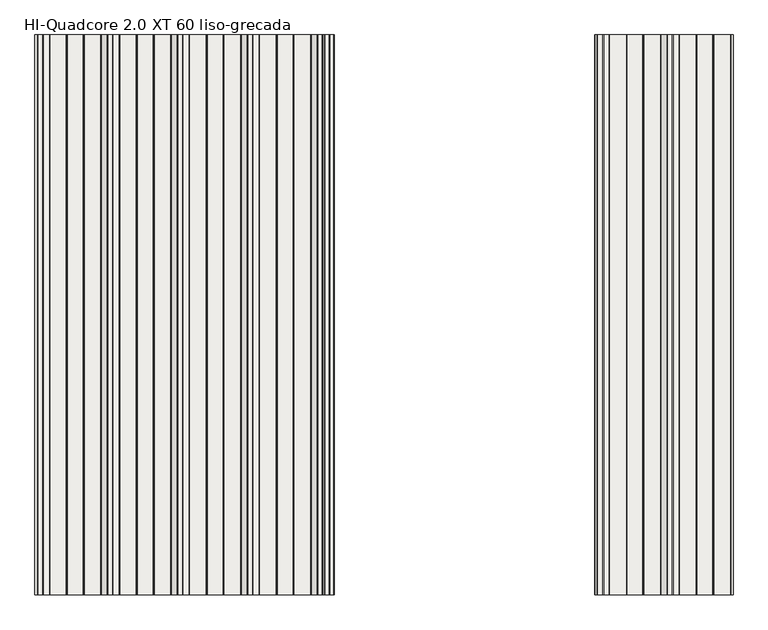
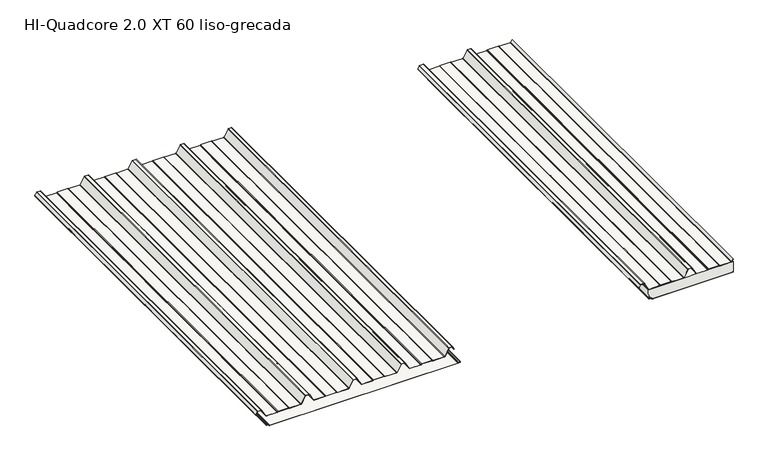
"""IFC4 building model written with IfcOpenShell, lengths in millimetres: slab geometry, HI_QuadCore2.0XT-XT DUAL : HI-Quadcore 2.0 XT 60 liso-grecada."""

from ifc_helpers import new_model, si_unit, point, frame, frame_2d, origin, place, context, project, spatial, polyline, circle_curve, trimmed, segment, composite_curve, outline, extrude, source, transform, mapped, element, save
from ifc_brep_helpers import plane_surface, cylinder_surface, revolved_surface, advanced_brep


def hi_quadcore_2_0_xt_60_liso_grecada_5afc28c5(model_context):
    return source(origin(), model_context, "Body", "SolidModel", [
        extrude(outline(composite_curve([segment(polyline([(98.1649405, 2138.5141429), (83.6579587, 2130.3539656)]), True, "CONTINUOUS"), segment(trimmed(circle_curve(frame_2d((83.0451321, 2131.443435)), 1.25), [point((83.6579587, 2130.3539656))], [point((82.689225, 2132.6416963))], False, "CARTESIAN"), True, "CONTINUOUS"), segment(polyline([(82.689225, 2132.6416963), (85.7359115, 2133.437141), (85.9380053, 2132.663088), (82.9074492, 2131.8718547)]), True, "CONTINUOUS"), segment(trimmed(circle_curve(frame_2d((83.0451321, 2131.443435)), 0.45), [point((82.9074492, 2131.8718547))], [point((83.2657497, 2131.051226))], True, "CARTESIAN"), True, "CONTINUOUS"), segment(polyline([(83.2657497, 2131.051226), (97.7727315, 2139.2114033)]), True, "CONTINUOUS"), segment(trimmed(circle_curve(frame_2d((96.4, 2141.6518148)), 2.8), [point((97.7727315, 2139.2114033))], [point((99.2, 2141.6518148))], True, "CARTESIAN"), True, "CONTINUOUS"), segment(polyline([(99.2, 2141.6518148), (99.2, 2158.9311117)]), True, "CONTINUOUS"), segment(trimmed(circle_curve(frame_2d((96.4, 2158.9311117)), 2.8), [point((99.2, 2158.9311117))], [point((97.5457267, 2161.4859719))], True, "CARTESIAN"), True, "CONTINUOUS"), segment(polyline([(97.5457267, 2161.4859719), (61.2048889, 2181.3052775)]), True, "CONTINUOUS"), segment(trimmed(circle_curve(frame_2d((63.0, 2184.6545425)), 3.8), [point((61.2048889, 2181.3052775))], [point((59.2, 2184.6545425))], False, "CARTESIAN"), True, "CONTINUOUS"), segment(polyline([(59.2, 2184.6545425), (59.2, 2242.4489557)]), True, "CONTINUOUS"), segment(trimmed(circle_curve(frame_2d((63.0, 2242.4489557)), 3.8), [point((59.2, 2242.4489557))], [point((59.6973596, 2244.328468))], False, "CARTESIAN"), True, "CONTINUOUS"), segment(polyline([(59.6973596, 2244.328468), (60.912055, 2246.4629056)]), True, "CONTINUOUS"), segment(trimmed(circle_curve(frame_2d((59.0, 2247.5510443)), 2.2), [point((60.912055, 2246.4629056))], [point((61.2, 2247.5510443))], True, "CARTESIAN"), True, "CONTINUOUS"), segment(polyline([(61.2, 2247.5510443), (61.2, 2302.4489557)]), True, "CONTINUOUS"), segment(trimmed(circle_curve(frame_2d((59.0, 2302.4489557)), 2.2), [point((61.2, 2302.4489557))], [point((60.912055, 2303.5370944))], True, "CARTESIAN"), True, "CONTINUOUS"), segment(polyline([(60.912055, 2303.5370944), (59.6973596, 2305.671532)]), True, "CONTINUOUS"), segment(trimmed(circle_curve(frame_2d((63.0, 2307.5510443)), 3.8), [point((59.6973596, 2305.671532))], [point((59.2, 2307.5510443))], False, "CARTESIAN"), True, "CONTINUOUS"), segment(polyline([(59.2, 2307.5510443), (59.2, 2365.7454575)]), True, "CONTINUOUS"), segment(trimmed(circle_curve(frame_2d((63.0, 2365.7454575)), 3.8), [point((59.2, 2365.7454575))], [point((61.1370073, 2369.0574446))], False, "CARTESIAN"), True, "CONTINUOUS"), segment(polyline([(61.1370073, 2369.0574446), (98.0785747, 2389.8370763)]), True, "CONTINUOUS"), segment(trimmed(circle_curve(frame_2d((97.0, 2391.7545425)), 2.2), [point((98.0785747, 2389.8370763))], [point((99.2, 2391.7545425))], True, "CARTESIAN"), True, "CONTINUOUS"), segment(polyline([(99.2, 2391.7545425), (99.2, 2408.2454575)]), True, "CONTINUOUS"), segment(trimmed(circle_curve(frame_2d((97.0, 2408.2454575)), 2.2), [point((99.2, 2408.2454575))], [point((98.0785747, 2410.1629237))], True, "CARTESIAN"), True, "CONTINUOUS"), segment(polyline([(98.0785747, 2410.1629237), (61.1370073, 2430.9425554)]), True, "CONTINUOUS"), segment(trimmed(circle_curve(frame_2d((63.0, 2434.2545425)), 3.8), [point((61.1370073, 2430.9425554))], [point((59.2, 2434.2545425))], False, "CARTESIAN"), True, "CONTINUOUS"), segment(polyline([(59.2, 2434.2545425), (59.2, 2492.4489557)]), True, "CONTINUOUS"), segment(trimmed(circle_curve(frame_2d((63.0, 2492.4489557)), 3.8), [point((59.2, 2492.4489557))], [point((59.6973596, 2494.328468))], False, "CARTESIAN"), True, "CONTINUOUS"), segment(polyline([(59.6973596, 2494.328468), (60.912055, 2496.4629056)]), True, "CONTINUOUS"), segment(trimmed(circle_curve(frame_2d((59.0, 2497.5510443)), 2.2), [point((60.912055, 2496.4629056))], [point((61.2, 2497.5510443))], True, "CARTESIAN"), True, "CONTINUOUS"), segment(polyline([(61.2, 2497.5510443), (61.2, 2552.4489557)]), True, "CONTINUOUS"), segment(trimmed(circle_curve(frame_2d((59.0, 2552.4489557)), 2.2), [point((61.2, 2552.4489557))], [point((60.912055, 2553.5370944))], True, "CARTESIAN"), True, "CONTINUOUS"), segment(polyline([(60.912055, 2553.5370944), (59.6973596, 2555.671532)]), True, "CONTINUOUS"), segment(trimmed(circle_curve(frame_2d((63.0, 2557.5510443)), 3.8), [point((59.6973596, 2555.671532))], [point((59.2, 2557.5510443))], False, "CARTESIAN"), True, "CONTINUOUS"), segment(polyline([(59.2, 2557.5510443), (59.2, 2615.7454575)]), True, "CONTINUOUS"), segment(trimmed(circle_curve(frame_2d((63.0, 2615.7454575)), 3.8), [point((59.2, 2615.7454575))], [point((61.1370073, 2619.0574446))], False, "CARTESIAN"), True, "CONTINUOUS"), segment(polyline([(61.1370073, 2619.0574446), (71.5197374, 2624.8977303), (73.1515205, 2624.8977303), (61.5292163, 2618.3601842)]), True, "CONTINUOUS"), segment(trimmed(circle_curve(frame_2d((63.0, 2615.7454575)), 3.0), [point((61.5292163, 2618.3601842))], [point((60.0, 2615.7454575))], True, "CARTESIAN"), True, "CONTINUOUS"), segment(polyline([(60.0, 2615.7454575), (60.0, 2557.5510443)]), True, "CONTINUOUS"), segment(trimmed(circle_curve(frame_2d((63.0, 2557.5510443)), 3.0), [point((60.0, 2557.5510443))], [point((60.3926523, 2556.0672188))], True, "CARTESIAN"), True, "CONTINUOUS"), segment(polyline([(60.3926523, 2556.0672188), (61.6073477, 2553.9327812)]), True, "CONTINUOUS"), segment(trimmed(circle_curve(frame_2d((59.0, 2552.4489557)), 3.0), [point((61.6073477, 2553.9327812))], [point((62.0, 2552.4489557))], False, "CARTESIAN"), True, "CONTINUOUS"), segment(polyline([(62.0, 2552.4489557), (62.0, 2497.5510443)]), True, "CONTINUOUS"), segment(trimmed(circle_curve(frame_2d((59.0, 2497.5510443)), 3.0), [point((62.0, 2497.5510443))], [point((61.6073477, 2496.0672188))], False, "CARTESIAN"), True, "CONTINUOUS"), segment(polyline([(61.6073477, 2496.0672188), (60.3926523, 2493.9327812)]), True, "CONTINUOUS"), segment(trimmed(circle_curve(frame_2d((63.0, 2492.4489557)), 3.0), [point((60.3926523, 2493.9327812))], [point((60.0, 2492.4489557))], True, "CARTESIAN"), True, "CONTINUOUS"), segment(polyline([(60.0, 2492.4489557), (60.0, 2434.2545425)]), True, "CONTINUOUS"), segment(trimmed(circle_curve(frame_2d((63.0, 2434.2545425)), 3.0), [point((60.0, 2434.2545425))], [point((61.5292163, 2431.6398158))], True, "CARTESIAN"), True, "CONTINUOUS"), segment(polyline([(61.5292163, 2431.6398158), (98.4707837, 2410.8601842)]), True, "CONTINUOUS"), segment(trimmed(circle_curve(frame_2d((97.0, 2408.2454575)), 3.0), [point((98.4707837, 2410.8601842))], [point((100.0, 2408.2454575))], False, "CARTESIAN"), True, "CONTINUOUS"), segment(polyline([(100.0, 2408.2454575), (100.0, 2391.7545425)]), True, "CONTINUOUS"), segment(trimmed(circle_curve(frame_2d((97.0, 2391.7545425)), 3.0), [point((100.0, 2391.7545425))], [point((98.4707837, 2389.1398158))], False, "CARTESIAN"), True, "CONTINUOUS"), segment(polyline([(98.4707837, 2389.1398158), (61.5292163, 2368.3601842)]), True, "CONTINUOUS"), segment(trimmed(circle_curve(frame_2d((63.0, 2365.7454575)), 3.0), [point((61.5292163, 2368.3601842))], [point((60.0, 2365.7454575))], True, "CARTESIAN"), True, "CONTINUOUS"), segment(polyline([(60.0, 2365.7454575), (60.0, 2307.5510443)]), True, "CONTINUOUS"), segment(trimmed(circle_curve(frame_2d((63.0, 2307.5510443)), 3.0), [point((60.0, 2307.5510443))], [point((60.3926523, 2306.0672188))], True, "CARTESIAN"), True, "CONTINUOUS"), segment(polyline([(60.3926523, 2306.0672188), (61.6073477, 2303.9327812)]), True, "CONTINUOUS"), segment(trimmed(circle_curve(frame_2d((59.0, 2302.4489557)), 3.0), [point((61.6073477, 2303.9327812))], [point((62.0, 2302.4489557))], False, "CARTESIAN"), True, "CONTINUOUS"), segment(polyline([(62.0, 2302.4489557), (62.0, 2247.5510443)]), True, "CONTINUOUS"), segment(trimmed(circle_curve(frame_2d((59.0, 2247.5510443)), 3.0), [point((62.0, 2247.5510443))], [point((61.6073477, 2246.0672188))], False, "CARTESIAN"), True, "CONTINUOUS"), segment(polyline([(61.6073477, 2246.0672188), (60.3926523, 2243.9327812)]), True, "CONTINUOUS"), segment(trimmed(circle_curve(frame_2d((63.0, 2242.4489557)), 3.0), [point((60.3926523, 2243.9327812))], [point((60.0, 2242.4489557))], True, "CARTESIAN"), True, "CONTINUOUS"), segment(polyline([(60.0, 2242.4489557), (60.0, 2184.6545425)]), True, "CONTINUOUS"), segment(trimmed(circle_curve(frame_2d((63.0, 2184.6545425)), 3.0), [point((60.0, 2184.6545425))], [point((61.5852209, 2182.0090935))], True, "CARTESIAN"), True, "CONTINUOUS"), segment(polyline([(61.5852209, 2182.0090935), (97.9031732, 2162.2022691)]), True, "CONTINUOUS"), segment(trimmed(circle_curve(frame_2d((96.4, 2158.9311117)), 3.6), [point((97.9031732, 2162.2022691))], [point((100.0, 2158.9311117))], False, "CARTESIAN"), True, "CONTINUOUS"), segment(polyline([(100.0, 2158.9311117), (100.0, 2141.6518148)]), True, "CONTINUOUS"), segment(trimmed(circle_curve(frame_2d((96.4, 2141.6518148)), 3.6), [point((100.0, 2141.6518148))], [point((98.1649405, 2138.5141429))], False, "CARTESIAN"), True, "CONTINUOUS")], self_intersect=False)), frame((0.0, 0.0, 0.0), z_axis=(0.0, 1.0, 0.0), x_axis=(0.0, 0.0, 1.0)), (0.0, 0.0, 1.0), 2000.0),
        extrude(outline(composite_curve([segment(trimmed(circle_curve(frame_2d((11.9759207, 2187.8456418)), 2.0), [point((13.390095, 2186.4313891))], [point((11.9758652, 2185.8456418))], False, "CARTESIAN"), True, "CONTINUOUS"), segment(polyline([(11.9758652, 2185.8456418), (8.333684, 2185.8457428)]), True, "CONTINUOUS"), segment(trimmed(circle_curve(frame_2d((8.3337394, 2187.8457428)), 2.0), [point((8.333684, 2185.8457428))], [point((6.3390802, 2187.6996787))], False, "CARTESIAN"), True, "CONTINUOUS"), segment(polyline([(6.3390802, 2187.6996787), (5.5769243, 2198.1077232)]), True, "CONTINUOUS"), segment(trimmed(circle_curve(frame_2d((3.5874027, 2197.9032632)), 2.0), [point((5.5769243, 2198.1077232))], [point((3.5874582, 2199.9032632))], True, "CARTESIAN"), True, "CONTINUOUS"), segment(polyline([(3.5874582, 2199.9032632), (1.9861383, 2199.9033076)]), True, "CONTINUOUS"), segment(trimmed(circle_curve(frame_2d((1.9861938, 2201.9033076)), 2.0), [point((1.9861383, 2199.9033076))], [point((-0.0138062, 2201.903363))], False, "CARTESIAN"), True, "CONTINUOUS"), segment(polyline([(-0.0138062, 2201.903363), (-0.0020796, 2624.8977303), (0.7979204, 2624.8977303), (0.7861938, 2201.9033408)]), True, "CONTINUOUS"), segment(trimmed(circle_curve(frame_2d((1.9861938, 2201.9033076)), 1.2), [point((0.7861938, 2201.9033408))], [point((1.9861605, 2200.7033076))], True, "CARTESIAN"), True, "CONTINUOUS"), segment(polyline([(1.9861605, 2200.7033076), (3.5874804, 2200.7032632)]), True, "CONTINUOUS"), segment(trimmed(circle_curve(frame_2d((3.5874027, 2197.9032632)), 2.8), [point((3.5874804, 2200.7032632))], [point((6.3740035, 2198.1768616))], False, "CARTESIAN"), True, "CONTINUOUS"), segment(polyline([(6.3740035, 2198.1768616), (7.1369439, 2187.7581044)]), True, "CONTINUOUS"), segment(trimmed(circle_curve(frame_2d((8.3337394, 2187.8457428)), 1.2), [point((7.1369439, 2187.7581044))], [point((8.3337062, 2186.6457428))], True, "CARTESIAN"), True, "CONTINUOUS"), segment(polyline([(8.3337062, 2186.6457428), (11.9758874, 2186.6456418)]), True, "CONTINUOUS"), segment(trimmed(circle_curve(frame_2d((11.9759207, 2187.8456418)), 1.2), [point((11.9758874, 2186.6456418))], [point((12.8244253, 2186.9970902))], True, "CARTESIAN"), True, "CONTINUOUS"), segment(polyline([(12.8244253, 2186.9970902), (14.9306702, 2189.1032183), (15.4963556, 2188.5375329), (13.390095, 2186.4313891)]), True, "CONTINUOUS")], self_intersect=False)), frame((0.0, 0.0, 0.0), z_axis=(0.0, 1.0, 0.0), x_axis=(0.0, 0.0, 1.0)), (0.0, 0.0, 1.0), 2000.0),
        extrude(outline(composite_curve([segment(polyline([(14.9306702, 2189.1032183), (12.8244253, 2186.9970902)]), True, "CONTINUOUS"), segment(trimmed(circle_curve(frame_2d((11.9759207, 2187.8456418)), 1.2), [point((12.8244253, 2186.9970902))], [point((11.9758874, 2186.6456418))], False, "CARTESIAN"), True, "CONTINUOUS"), segment(polyline([(11.9758874, 2186.6456418), (8.3337062, 2186.6457428)]), True, "CONTINUOUS"), segment(trimmed(circle_curve(frame_2d((8.3337394, 2187.8457428)), 1.2), [point((8.3337062, 2186.6457428))], [point((7.1369439, 2187.7581044))], False, "CARTESIAN"), True, "CONTINUOUS"), segment(polyline([(7.1369439, 2187.7581044), (6.3740035, 2198.1768616)]), True, "CONTINUOUS"), segment(trimmed(circle_curve(frame_2d((3.5874027, 2197.9032632)), 2.8), [point((6.3740035, 2198.1768616))], [point((3.5874804, 2200.7032632))], True, "CARTESIAN"), True, "CONTINUOUS"), segment(polyline([(3.5874804, 2200.7032632), (1.9861605, 2200.7033076)]), True, "CONTINUOUS"), segment(trimmed(circle_curve(frame_2d((1.9861938, 2201.9033076)), 1.2), [point((1.9861605, 2200.7033076))], [point((0.7861938, 2201.9033408))], False, "CARTESIAN"), True, "CONTINUOUS"), segment(polyline([(0.7861938, 2201.9033408), (0.7979204, 2624.8977303), (58.0, 2624.8977303), (58.0, 2181.4920395), (7.0308356, 2184.4622222), (7.2414508, 2185.8457731), (11.9758652, 2185.8456418)]), True, "CONTINUOUS"), segment(trimmed(circle_curve(frame_2d((11.9759207, 2187.8456418)), 2.0), [point((11.9758652, 2185.8456418))], [point((13.390095, 2186.4313891))], True, "CARTESIAN"), True, "CONTINUOUS"), segment(polyline([(13.390095, 2186.4313891), (15.4963556, 2188.5375329), (14.9306702, 2189.1032183)]), True, "CONTINUOUS")], self_intersect=False)), frame((0.0, 0.0, 0.0), z_axis=(0.0, 1.0, 0.0), x_axis=(0.0, 0.0, 1.0)), (0.0, 0.0, 1.0), 2000.0),
        advanced_brep(
        [(186.4313891, 0.0, 13.3795578), (185.8456418, 0.0, 11.9654043), (185.8456037, 0.0, 8.2995811), (187.6996787, 0.0, 6.328543), (198.1077232, 0.0, 5.5663871), (199.9032632, 0.0, 3.5769209), (199.9033076, 0.0, 1.9756011), (201.903363, 0.0, -0.0243435), (1197.9162803, 0.0, 0.003269), (1199.9046779, 0.0, 2.0032908), (1199.904653, 0.0, 2.9012893), (1198.0077486, 0.0, 4.8985749), (1186.1928118, 0.0, 5.7933732), (1184.3438482, 0.0, 7.7876066), (1184.3437386, 0.0, 11.7402379), (1183.757913, 0.0, 13.1544352), (1182.3436602, 0.0, 14.5686095), (1181.7779748, 0.0, 14.0029241), (1183.1922433, 0.0, 12.5887341), (1183.5437386, 0.0, 11.7402157), (1183.5438482, 0.0, 7.7875844), (1186.1323972, 0.0, 4.9956577), (1197.958132, 0.0, 4.1000416), (1199.104653, 0.0, 2.9012672), (1199.1046779, 0.0, 2.0032686), (1197.9136554, 0.0, 0.8032689), (201.9033408, 0.0, 0.7756565), (200.7033076, 0.0, 1.9756233), (200.7032632, 0.0, 3.5769431), (198.1768616, 0.0, 6.3634663), (187.7581044, 0.0, 7.1264067), (186.6457428, 0.0, 8.3231689), (186.6456418, 0.0, 11.965396), (186.9970902, 0.0, 12.8138881), (189.1032183, 0.0, 14.920133), (188.5375329, 0.0, 15.4858184), (186.4313891, 2000.0, 13.3795578), (188.5375329, 2000.0, 15.4858184), (189.1032183, 2000.0, 14.920133), (186.9970902, 2000.0, 12.8138881), (186.6456418, 2000.0, 11.965396), (186.6456037, 2000.0, 8.2995728), (187.7581044, 2000.0, 7.1264067), (198.1768616, 2000.0, 6.3634663), (200.7032632, 2000.0, 3.5769431), (200.7033076, 2000.0, 1.9756233), (201.9033408, 2000.0, 0.7756565), (1197.9136554, 2000.0, 0.8032689), (1199.1046779, 2000.0, 2.0032686), (1199.104653, 2000.0, 2.9012672), (1197.958132, 2000.0, 4.1000416), (1186.1323972, 2000.0, 4.9956577), (1183.5438482, 2000.0, 7.7875844), (1183.5437386, 2000.0, 11.7402157), (1183.1922433, 2000.0, 12.5887341), (1181.7779748, 2000.0, 14.0029241), (1182.3436602, 2000.0, 14.5686095), (1183.757913, 2000.0, 13.1544352), (1184.3437386, 2000.0, 11.7402379), (1184.3438482, 2000.0, 7.7876066), (1186.1928118, 2000.0, 5.7933732), (1198.0077486, 2000.0, 4.8985749), (1199.904653, 2000.0, 2.9012893), (1199.9046779, 2000.0, 2.0032908), (1197.9162803, 2000.0, 0.003269), (201.903363, 2000.0, -0.0243435), (199.9033076, 2000.0, 1.9756011), (199.9032632, 2000.0, 3.5769209), (198.1077232, 2000.0, 5.5663871), (187.6996787, 2000.0, 6.328543), (185.8457428, 2000.0, 8.3231467), (185.8456418, 2000.0, 11.9654043)],
        [
            (0, 1, circle_curve(frame((187.8456418, 0.0, 11.9653834), z_axis=(0.0, -1.0, 0.0), x_axis=(1.0, 0.0, 0.0)), 2.0)),
            (1, 2),
            (2, 3, circle_curve(frame((187.8457428, 0.0, 8.3232022), z_axis=(0.0, -1.0, 0.0), x_axis=(1.0, 0.0, 0.0)), 2.0)),
            (3, 4),
            (4, 5, circle_curve(frame((197.9032632, 0.0, 3.5768655), z_axis=(0.0, 1.0, 0.0), x_axis=(1.0, 0.0, 0.0)), 2.0)),
            (5, 6),
            (6, 7, circle_curve(frame((201.9033076, 0.0, 1.9756565), z_axis=(0.0, -1.0, 0.0), x_axis=(1.0, 0.0, 0.0)), 2.0)),
            (7, 8),
            (8, 9, circle_curve(frame((1197.9046779, 0.0, 2.0032353), z_axis=(0.0, -1.0, 0.0), x_axis=(1.0, 0.0, 0.0)), 2.0)),
            (9, 10),
            (10, 11, circle_curve(frame((1197.904653, 0.0, 2.9012339), z_axis=(0.0, -1.0, 0.0), x_axis=(1.0, 0.0, 0.0)), 2.0)),
            (11, 12),
            (12, 13, circle_curve(frame((1186.3438482, 0.0, 7.7876621), z_axis=(0.0, 1.0, 0.0), x_axis=(1.0, 0.0, 0.0)), 2.0)),
            (13, 14),
            (14, 15, circle_curve(frame((1182.3437386, 0.0, 11.7401824), z_axis=(0.0, -1.0, 0.0), x_axis=(1.0, 0.0, 0.0)), 2.0)),
            (15, 16),
            (16, 17),
            (17, 18),
            (18, 19, circle_curve(frame((1182.3437386, 0.0, 11.7401824), z_axis=(0.0, 1.0, 0.0), x_axis=(1.0, 0.0, 0.0)), 1.2)),
            (19, 20),
            (20, 21, circle_curve(frame((1186.3438482, 0.0, 7.7876621), z_axis=(0.0, -1.0, 0.0), x_axis=(1.0, 0.0, 0.0)), 2.8)),
            (21, 22),
            (22, 23, circle_curve(frame((1197.904653, 0.0, 2.9012339), z_axis=(0.0, 1.0, 0.0), x_axis=(1.0, 0.0, 0.0)), 1.2)),
            (23, 24),
            (24, 25, circle_curve(frame((1197.9046779, 0.0, 2.0032353), z_axis=(0.0, 1.0, 0.0), x_axis=(1.0, 0.0, 0.0)), 1.2)),
            (25, 26),
            (26, 27, circle_curve(frame((201.9033076, 0.0, 1.9756565), z_axis=(0.0, 1.0, 0.0), x_axis=(1.0, 0.0, 0.0)), 1.2)),
            (27, 28),
            (28, 29, circle_curve(frame((197.9032632, 0.0, 3.5768655), z_axis=(0.0, -1.0, 0.0), x_axis=(1.0, 0.0, 0.0)), 2.8)),
            (29, 30),
            (30, 31, circle_curve(frame((187.8457428, 0.0, 8.3232022), z_axis=(0.0, 1.0, 0.0), x_axis=(1.0, 0.0, 0.0)), 1.2)),
            (31, 32),
            (32, 33, circle_curve(frame((187.8456418, 0.0, 11.9653834), z_axis=(0.0, 1.0, 0.0), x_axis=(1.0, 0.0, 0.0)), 1.2)),
            (33, 34),
            (34, 35),
            (35, 0),
            (36, 37),
            (37, 38),
            (38, 39),
            (39, 40, circle_curve(frame((187.8456418, 2000.0, 11.9653834), z_axis=(0.0, -1.0, 0.0), x_axis=(1.0, 0.0, 0.0)), 1.2)),
            (40, 41),
            (41, 42, circle_curve(frame((187.8457428, 2000.0, 8.3232022), z_axis=(0.0, -1.0, 0.0), x_axis=(1.0, 0.0, 0.0)), 1.2)),
            (42, 43),
            (43, 44, circle_curve(frame((197.9032632, 2000.0, 3.5768655), z_axis=(0.0, 1.0, 0.0), x_axis=(1.0, 0.0, 0.0)), 2.8)),
            (44, 45),
            (45, 46, circle_curve(frame((201.9033076, 2000.0, 1.9756565), z_axis=(0.0, -1.0, 0.0), x_axis=(1.0, 0.0, 0.0)), 1.2)),
            (46, 47),
            (47, 48, circle_curve(frame((1197.9046779, 2000.0, 2.0032353), z_axis=(0.0, -1.0, 0.0), x_axis=(1.0, 0.0, 0.0)), 1.2)),
            (48, 49),
            (49, 50, circle_curve(frame((1197.904653, 2000.0, 2.9012339), z_axis=(0.0, -1.0, 0.0), x_axis=(1.0, 0.0, 0.0)), 1.2)),
            (50, 51),
            (51, 52, circle_curve(frame((1186.3438482, 2000.0, 7.7876621), z_axis=(0.0, 1.0, 0.0), x_axis=(1.0, 0.0, 0.0)), 2.8)),
            (52, 53),
            (53, 54, circle_curve(frame((1182.3437386, 2000.0, 11.7401824), z_axis=(0.0, -1.0, 0.0), x_axis=(1.0, 0.0, 0.0)), 1.2)),
            (54, 55),
            (55, 56),
            (56, 57),
            (57, 58, circle_curve(frame((1182.3437386, 2000.0, 11.7401824), z_axis=(0.0, 1.0, 0.0), x_axis=(1.0, 0.0, 0.0)), 2.0)),
            (58, 59),
            (59, 60, circle_curve(frame((1186.3438482, 2000.0, 7.7876621), z_axis=(0.0, -1.0, 0.0), x_axis=(1.0, 0.0, 0.0)), 2.0)),
            (60, 61),
            (61, 62, circle_curve(frame((1197.904653, 2000.0, 2.9012339), z_axis=(0.0, 1.0, 0.0), x_axis=(1.0, 0.0, 0.0)), 2.0)),
            (62, 63),
            (63, 64, circle_curve(frame((1197.9046779, 2000.0, 2.0032353), z_axis=(0.0, 1.0, 0.0), x_axis=(1.0, 0.0, 0.0)), 2.0)),
            (64, 65),
            (65, 66, circle_curve(frame((201.9033076, 2000.0, 1.9756565), z_axis=(0.0, 1.0, 0.0), x_axis=(1.0, 0.0, 0.0)), 2.0)),
            (66, 67),
            (67, 68, circle_curve(frame((197.9032632, 2000.0, 3.5768655), z_axis=(0.0, -1.0, 0.0), x_axis=(1.0, 0.0, 0.0)), 2.0)),
            (68, 69),
            (69, 70, circle_curve(frame((187.8457428, 2000.0, 8.3232022), z_axis=(0.0, 1.0, 0.0), x_axis=(1.0, 0.0, 0.0)), 2.0)),
            (70, 71),
            (71, 36, circle_curve(frame((187.8456418, 2000.0, 11.9653834), z_axis=(0.0, 1.0, 0.0), x_axis=(1.0, 0.0, 0.0)), 2.0)),
            (0, 36),
            (71, 1),
            (70, 2),
            (69, 3),
            (68, 4),
            (67, 5),
            (66, 6),
            (65, 7),
            (64, 8),
            (63, 9),
            (62, 10),
            (61, 11),
            (60, 12),
            (59, 13),
            (58, 14),
            (57, 15),
            (56, 16),
            (55, 17),
            (54, 18),
            (53, 19),
            (52, 20),
            (51, 21),
            (50, 22),
            (49, 23),
            (48, 24),
            (47, 25),
            (46, 26),
            (45, 27),
            (44, 28),
            (43, 29),
            (42, 30),
            (41, 31),
            (40, 32),
            (39, 33),
            (38, 34),
            (37, 35),
        ],
        [
            plane_surface(frame((189.8456418, 0.0, 11.9653834), z_axis=(0.0, -1.0, 0.0), x_axis=(0.0, 0.0, 1.0))),
            plane_surface(frame((189.8456418, 2000.0, 11.9653834), z_axis=(0.0, 1.0, 0.0), x_axis=(0.0, 0.0, -1.0))),
            cylinder_surface(frame((187.8456418, 2000.0, 11.9653834), z_axis=(0.0, -1.0, 0.0), x_axis=(1.0, 0.0, 0.0)), 2.0),
            plane_surface(frame((185.8456418, 0.0, 11.9654043), z_axis=(-0.9999999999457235, 0.0, 1.041887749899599e-05), x_axis=(0.0, 1.0, 0.0))),
            cylinder_surface(frame((187.8457428, 2000.0, 8.3232022), z_axis=(0.0, -1.0, 0.0), x_axis=(1.0, 0.0, 0.0)), 2.0),
            plane_surface(frame((187.6996787, 0.0, 6.328543), z_axis=(-0.07303203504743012, 0.0, -0.9973295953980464), x_axis=(0.0, 1.0, 0.0))),
            revolved_surface(polyline([(199.9032632, 2000.0, 3.5768655), (199.9032632, 0.0, 3.5768655)]), (197.9032632, 2000.0, 3.5768655), (0.0, 1.0, 0.0)),
            plane_surface(frame((199.9032632, 0.0, 3.5769209), z_axis=(-0.9999999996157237, 0.0, -2.7722781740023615e-05), x_axis=(0.0, 1.0, 0.0))),
            cylinder_surface(frame((201.9033076, 2000.0, 1.9756565), z_axis=(0.0, -1.0, 0.0), x_axis=(1.0, 0.0, 0.0)), 2.0),
            plane_surface(frame((201.903363, 0.0, -0.0243435), z_axis=(2.772298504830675e-05, 0.0, -0.9999999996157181), x_axis=(0.0, 1.0, 0.0))),
            cylinder_surface(frame((1197.9046779, 2000.0, 2.0032353), z_axis=(0.0, -1.0, 0.0), x_axis=(1.0, 0.0, 0.0)), 2.0),
            plane_surface(frame((1199.9046779, 0.0, 2.0032908), z_axis=(0.9999999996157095, 0.0, 2.7723295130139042e-05), x_axis=(0.0, 1.0, 0.0))),
            cylinder_surface(frame((1197.904653, 2000.0, 2.9012339), z_axis=(0.0, -1.0, 0.0), x_axis=(1.0, 0.0, 0.0)), 2.0),
            plane_surface(frame((1198.0077486, 0.0, 4.8985749), z_axis=(0.07551822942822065, 0.0, 0.9971444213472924), x_axis=(0.0, 1.0, 0.0))),
            revolved_surface(polyline([(1188.3438482, 2000.0, 7.7876621), (1188.3438482, 0.0, 7.7876621)]), (1186.3438482, 2000.0, 7.7876621), (0.0, 1.0, 0.0)),
            plane_surface(frame((1184.3438482, 0.0, 7.7876066), z_axis=(0.9999999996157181, 0.0, 2.7722984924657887e-05), x_axis=(0.0, 1.0, 0.0))),
            cylinder_surface(frame((1182.3437386, 2000.0, 11.7401824), z_axis=(0.0, -1.0, 0.0), x_axis=(1.0, 0.0, 0.0)), 2.0),
            plane_surface(frame((1183.757913, 0.0, 13.1544352), z_axis=(0.7070871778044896, 0.0, 0.7071263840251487), x_axis=(0.0, 1.0, 0.0))),
            plane_surface(frame((1182.3436602, 0.0, 14.5686095), z_axis=(-0.7071067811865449, 0.0, 0.7071067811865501), x_axis=(0.0, 1.0, 0.0))),
            plane_surface(frame((1181.7779748, 0.0, 14.0029241), z_axis=(-0.7070871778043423, 0.0, -0.707126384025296), x_axis=(0.0, 1.0, 0.0))),
            revolved_surface(polyline([(1183.5437386, 2000.0, 11.7401824), (1183.5437386, 0.0, 11.7401824)]), (1182.3437386, 2000.0, 11.7401824), (0.0, 1.0, 0.0)),
            plane_surface(frame((1183.5437386, 0.0, 11.7402157), z_axis=(-0.9999999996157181, 0.0, -2.7722985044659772e-05), x_axis=(0.0, 1.0, 0.0))),
            cylinder_surface(frame((1186.3438482, 2000.0, 7.7876621), z_axis=(0.0, -1.0, 0.0), x_axis=(1.0, 0.0, 0.0)), 2.8),
            plane_surface(frame((1186.1323972, 0.0, 4.9956577), z_axis=(-0.07551822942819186, 0.0, -0.9971444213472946), x_axis=(0.0, 1.0, 0.0))),
            revolved_surface(polyline([(1199.104653, 2000.0, 2.9012339), (1199.104653, 0.0, 2.9012339)]), (1197.904653, 2000.0, 2.9012339), (0.0, 1.0, 0.0)),
            plane_surface(frame((1199.104653, 0.0, 2.9012672), z_axis=(-0.9999999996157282, 0.0, -2.7722622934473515e-05), x_axis=(0.0, 1.0, 0.0))),
            revolved_surface(polyline([(1199.1046779, 2000.0, 2.0032353), (1199.1046779, 0.0, 2.0032353)]), (1197.9046779, 2000.0, 2.0032353), (0.0, 1.0, 0.0)),
            plane_surface(frame((1197.9136554, 0.0, 0.8032689), z_axis=(-2.7722985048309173e-05, 0.0, 0.9999999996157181), x_axis=(0.0, 1.0, 0.0))),
            revolved_surface(polyline([(203.1033076, 2000.0, 1.9756565), (203.1033076, 0.0, 1.9756565)]), (201.9033076, 2000.0, 1.9756565), (0.0, 1.0, 0.0)),
            plane_surface(frame((200.7033076, 0.0, 1.9756233), z_axis=(0.9999999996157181, 0.0, 2.7722983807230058e-05), x_axis=(0.0, 1.0, 0.0))),
            cylinder_surface(frame((197.9032632, 2000.0, 3.5768655), z_axis=(0.0, -1.0, 0.0), x_axis=(1.0, 0.0, 0.0)), 2.8),
            plane_surface(frame((198.1768616, 0.0, 6.3634663), z_axis=(0.0730320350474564, 0.0, 0.9973295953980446), x_axis=(0.0, 1.0, 0.0))),
            revolved_surface(polyline([(189.0457428, 2000.0, 8.3232022), (189.0457428, 0.0, 8.3232022)]), (187.8457428, 2000.0, 8.3232022), (0.0, 1.0, 0.0)),
            plane_surface(frame((186.6456037, 0.0, 8.2995728), z_axis=(0.9999999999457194, 0.0, -1.0419274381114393e-05), x_axis=(0.0, 1.0, 0.0))),
            revolved_surface(polyline([(189.0456418, 2000.0, 11.9653834), (189.0456418, 0.0, 11.9653834)]), (187.8456418, 2000.0, 11.9653834), (0.0, 1.0, 0.0)),
            plane_surface(frame((186.9970902, 0.0, 12.8138881), z_axis=(0.7071263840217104, 0.0, -0.7070871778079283), x_axis=(0.0, 1.0, 0.0))),
            plane_surface(frame((189.1032183, 0.0, 14.920133), z_axis=(0.7071067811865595, 0.0, 0.7071067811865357), x_axis=(0.0, 1.0, 0.0))),
            plane_surface(frame((188.5375329, 0.0, 15.4858184), z_axis=(-0.7071263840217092, 0.0, 0.7070871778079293), x_axis=(0.0, 1.0, 0.0))),
        ],
        [
            (0, [[1, 2, 3, 4, 5, 6, 7, 8, 9, 10, 11, 12, 13, 14, 15, 16, 17, 18, 19, 20, 21, 22, 23, 24, 25, 26, 27, 28, 29, 30, 31, 32, 33, 34, 35, 36]]),
            (1, [[37, 38, 39, 40, 41, 42, 43, 44, 45, 46, 47, 48, 49, 50, 51, 52, 53, 54, 55, 56, 57, 58, 59, 60, 61, 62, 63, 64, 65, 66, 67, 68, 69, 70, 71, 72]]),
            (2, [[-1, 73, -72, 74]]),
            (3, [[-2, -74, -71, 75]]),
            (4, [[-3, -75, -70, 76]]),
            (5, [[-4, -76, -69, 77]]),
            (6, [[-5, -77, -68, 78]]),
            (7, [[-6, -78, -67, 79]]),
            (8, [[-7, -79, -66, 80]]),
            (9, [[-8, -80, -65, 81]]),
            (10, [[-9, -81, -64, 82]]),
            (11, [[-10, -82, -63, 83]]),
            (12, [[-11, -83, -62, 84]]),
            (13, [[-12, -84, -61, 85]]),
            (14, [[-13, -85, -60, 86]]),
            (15, [[-14, -86, -59, 87]]),
            (16, [[-15, -87, -58, 88]]),
            (17, [[-16, -88, -57, 89]]),
            (18, [[-17, -89, -56, 90]]),
            (19, [[-18, -90, -55, 91]]),
            (20, [[-19, -91, -54, 92]]),
            (21, [[-20, -92, -53, 93]]),
            (22, [[-21, -93, -52, 94]]),
            (23, [[-22, -94, -51, 95]]),
            (24, [[-23, -95, -50, 96]]),
            (25, [[-24, -96, -49, 97]]),
            (26, [[-25, -97, -48, 98]]),
            (27, [[-26, -98, -47, 99]]),
            (28, [[-27, -99, -46, 100]]),
            (29, [[-28, -100, -45, 101]]),
            (30, [[-29, -101, -44, 102]]),
            (31, [[-30, -102, -43, 103]]),
            (32, [[-31, -103, -42, 104]]),
            (33, [[-32, -104, -41, 105]]),
            (34, [[-33, -105, -40, 106]]),
            (35, [[-34, -106, -39, 107]]),
            (36, [[-35, -107, -38, 108]]),
            (37, [[-36, -108, -37, -73]]),
        ],
    ),
        extrude(outline(composite_curve([segment(polyline([(98.1649405, 138.5141429), (83.6579587, 130.3539656)]), True, "CONTINUOUS"), segment(trimmed(circle_curve(frame_2d((83.0451321, 131.443435)), 1.25), [point((83.6579587, 130.3539656))], [point((82.689225, 132.6416963))], False, "CARTESIAN"), True, "CONTINUOUS"), segment(polyline([(82.689225, 132.6416963), (85.7359115, 133.437141), (85.9380053, 132.663088), (82.9074492, 131.8718547)]), True, "CONTINUOUS"), segment(trimmed(circle_curve(frame_2d((83.0451321, 131.443435)), 0.45), [point((82.9074492, 131.8718547))], [point((83.2657497, 131.051226))], True, "CARTESIAN"), True, "CONTINUOUS"), segment(polyline([(83.2657497, 131.051226), (97.7727315, 139.2114033)]), True, "CONTINUOUS"), segment(trimmed(circle_curve(frame_2d((96.4, 141.6518148)), 2.8), [point((97.7727315, 139.2114033))], [point((99.2, 141.6518148))], True, "CARTESIAN"), True, "CONTINUOUS"), segment(polyline([(99.2, 141.6518148), (99.2, 158.9311117)]), True, "CONTINUOUS"), segment(trimmed(circle_curve(frame_2d((96.4, 158.9311117)), 2.8), [point((99.2, 158.9311117))], [point((97.5457267, 161.4859719))], True, "CARTESIAN"), True, "CONTINUOUS"), segment(polyline([(97.5457267, 161.4859719), (61.2048889, 181.3052775)]), True, "CONTINUOUS"), segment(trimmed(circle_curve(frame_2d((63.0, 184.6545425)), 3.8), [point((61.2048889, 181.3052775))], [point((59.2, 184.6545425))], False, "CARTESIAN"), True, "CONTINUOUS"), segment(polyline([(59.2, 184.6545425), (59.2, 242.4489557)]), True, "CONTINUOUS"), segment(trimmed(circle_curve(frame_2d((63.0, 242.4489557)), 3.8), [point((59.2, 242.4489557))], [point((59.6973596, 244.328468))], False, "CARTESIAN"), True, "CONTINUOUS"), segment(polyline([(59.6973596, 244.328468), (60.912055, 246.4629056)]), True, "CONTINUOUS"), segment(trimmed(circle_curve(frame_2d((59.0, 247.5510443)), 2.2), [point((60.912055, 246.4629056))], [point((61.2, 247.5510443))], True, "CARTESIAN"), True, "CONTINUOUS"), segment(polyline([(61.2, 247.5510443), (61.2, 302.4489557)]), True, "CONTINUOUS"), segment(trimmed(circle_curve(frame_2d((59.0, 302.4489557)), 2.2), [point((61.2, 302.4489557))], [point((60.912055, 303.5370944))], True, "CARTESIAN"), True, "CONTINUOUS"), segment(polyline([(60.912055, 303.5370944), (59.6973596, 305.671532)]), True, "CONTINUOUS"), segment(trimmed(circle_curve(frame_2d((63.0, 307.5510443)), 3.8), [point((59.6973596, 305.671532))], [point((59.2, 307.5510443))], False, "CARTESIAN"), True, "CONTINUOUS"), segment(polyline([(59.2, 307.5510443), (59.2, 365.7454575)]), True, "CONTINUOUS"), segment(trimmed(circle_curve(frame_2d((63.0, 365.7454575)), 3.8), [point((59.2, 365.7454575))], [point((61.1370073, 369.0574446))], False, "CARTESIAN"), True, "CONTINUOUS"), segment(polyline([(61.1370073, 369.0574446), (98.0785747, 389.8370763)]), True, "CONTINUOUS"), segment(trimmed(circle_curve(frame_2d((97.0, 391.7545425)), 2.2), [point((98.0785747, 389.8370763))], [point((99.2, 391.7545425))], True, "CARTESIAN"), True, "CONTINUOUS"), segment(polyline([(99.2, 391.7545425), (99.2, 408.2454575)]), True, "CONTINUOUS"), segment(trimmed(circle_curve(frame_2d((97.0, 408.2454575)), 2.2), [point((99.2, 408.2454575))], [point((98.0785747, 410.1629237))], True, "CARTESIAN"), True, "CONTINUOUS"), segment(polyline([(98.0785747, 410.1629237), (61.1370073, 430.9425554)]), True, "CONTINUOUS"), segment(trimmed(circle_curve(frame_2d((63.0, 434.2545425)), 3.8), [point((61.1370073, 430.9425554))], [point((59.2, 434.2545425))], False, "CARTESIAN"), True, "CONTINUOUS"), segment(polyline([(59.2, 434.2545425), (59.2, 492.4489557)]), True, "CONTINUOUS"), segment(trimmed(circle_curve(frame_2d((63.0, 492.4489557)), 3.8), [point((59.2, 492.4489557))], [point((59.6973596, 494.328468))], False, "CARTESIAN"), True, "CONTINUOUS"), segment(polyline([(59.6973596, 494.328468), (60.912055, 496.4629056)]), True, "CONTINUOUS"), segment(trimmed(circle_curve(frame_2d((59.0, 497.5510443)), 2.2), [point((60.912055, 496.4629056))], [point((61.2, 497.5510443))], True, "CARTESIAN"), True, "CONTINUOUS"), segment(polyline([(61.2, 497.5510443), (61.2, 552.4489557)]), True, "CONTINUOUS"), segment(trimmed(circle_curve(frame_2d((59.0, 552.4489557)), 2.2), [point((61.2, 552.4489557))], [point((60.912055, 553.5370944))], True, "CARTESIAN"), True, "CONTINUOUS"), segment(polyline([(60.912055, 553.5370944), (59.6973596, 555.671532)]), True, "CONTINUOUS"), segment(trimmed(circle_curve(frame_2d((63.0, 557.5510443)), 3.8), [point((59.6973596, 555.671532))], [point((59.2, 557.5510443))], False, "CARTESIAN"), True, "CONTINUOUS"), segment(polyline([(59.2, 557.5510443), (59.2, 615.7454575)]), True, "CONTINUOUS"), segment(trimmed(circle_curve(frame_2d((63.0, 615.7454575)), 3.8), [point((59.2, 615.7454575))], [point((61.1370073, 619.0574446))], False, "CARTESIAN"), True, "CONTINUOUS"), segment(polyline([(61.1370073, 619.0574446), (98.0785747, 639.8370763)]), True, "CONTINUOUS"), segment(trimmed(circle_curve(frame_2d((97.0, 641.7545425)), 2.2), [point((98.0785747, 639.8370763))], [point((99.2, 641.7545425))], True, "CARTESIAN"), True, "CONTINUOUS"), segment(polyline([(99.2, 641.7545425), (99.2, 658.2454575)]), True, "CONTINUOUS"), segment(trimmed(circle_curve(frame_2d((97.0, 658.2454575)), 2.2), [point((99.2, 658.2454575))], [point((98.0785747, 660.1629237))], True, "CARTESIAN"), True, "CONTINUOUS"), segment(polyline([(98.0785747, 660.1629237), (61.1370073, 680.9425554)]), True, "CONTINUOUS"), segment(trimmed(circle_curve(frame_2d((63.0, 684.2545425)), 3.8), [point((61.1370073, 680.9425554))], [point((59.2, 684.2545425))], False, "CARTESIAN"), True, "CONTINUOUS"), segment(polyline([(59.2, 684.2545425), (59.2, 742.4489557)]), True, "CONTINUOUS"), segment(trimmed(circle_curve(frame_2d((63.0, 742.4489557)), 3.8), [point((59.2, 742.4489557))], [point((59.6973596, 744.328468))], False, "CARTESIAN"), True, "CONTINUOUS"), segment(polyline([(59.6973596, 744.328468), (60.912055, 746.4629056)]), True, "CONTINUOUS"), segment(trimmed(circle_curve(frame_2d((59.0, 747.5510443)), 2.2), [point((60.912055, 746.4629056))], [point((61.2, 747.5510443))], True, "CARTESIAN"), True, "CONTINUOUS"), segment(polyline([(61.2, 747.5510443), (61.2, 802.4489557)]), True, "CONTINUOUS"), segment(trimmed(circle_curve(frame_2d((59.0, 802.4489557)), 2.2), [point((61.2, 802.4489557))], [point((60.912055, 803.5370944))], True, "CARTESIAN"), True, "CONTINUOUS"), segment(polyline([(60.912055, 803.5370944), (59.6973596, 805.671532)]), True, "CONTINUOUS"), segment(trimmed(circle_curve(frame_2d((63.0, 807.5510443)), 3.8), [point((59.6973596, 805.671532))], [point((59.2, 807.5510443))], False, "CARTESIAN"), True, "CONTINUOUS"), segment(polyline([(59.2, 807.5510443), (59.2, 865.7454575)]), True, "CONTINUOUS"), segment(trimmed(circle_curve(frame_2d((63.0, 865.7454575)), 3.8), [point((59.2, 865.7454575))], [point((61.1370073, 869.0574446))], False, "CARTESIAN"), True, "CONTINUOUS"), segment(polyline([(61.1370073, 869.0574446), (98.0785747, 889.8370763)]), True, "CONTINUOUS"), segment(trimmed(circle_curve(frame_2d((97.0, 891.7545425)), 2.2), [point((98.0785747, 889.8370763))], [point((99.2, 891.7545425))], True, "CARTESIAN"), True, "CONTINUOUS"), segment(polyline([(99.2, 891.7545425), (99.2, 908.2454575)]), True, "CONTINUOUS"), segment(trimmed(circle_curve(frame_2d((97.0, 908.2454575)), 2.2), [point((99.2, 908.2454575))], [point((98.0785747, 910.1629237))], True, "CARTESIAN"), True, "CONTINUOUS"), segment(polyline([(98.0785747, 910.1629237), (61.1370073, 930.9425554)]), True, "CONTINUOUS"), segment(trimmed(circle_curve(frame_2d((63.0, 934.2545425)), 3.8), [point((61.1370073, 930.9425554))], [point((59.2, 934.2545425))], False, "CARTESIAN"), True, "CONTINUOUS"), segment(polyline([(59.2, 934.2545425), (59.2, 992.4489557)]), True, "CONTINUOUS"), segment(trimmed(circle_curve(frame_2d((63.0, 992.4489557)), 3.8), [point((59.2, 992.4489557))], [point((59.6973596, 994.328468))], False, "CARTESIAN"), True, "CONTINUOUS"), segment(polyline([(59.6973596, 994.328468), (60.912055, 996.4629056)]), True, "CONTINUOUS"), segment(trimmed(circle_curve(frame_2d((59.0, 997.5510443)), 2.2), [point((60.912055, 996.4629056))], [point((61.2, 997.5510443))], True, "CARTESIAN"), True, "CONTINUOUS"), segment(polyline([(61.2, 997.5510443), (61.2, 1052.4489557)]), True, "CONTINUOUS"), segment(trimmed(circle_curve(frame_2d((59.0, 1052.4489557)), 2.2), [point((61.2, 1052.4489557))], [point((60.912055, 1053.5370944))], True, "CARTESIAN"), True, "CONTINUOUS"), segment(polyline([(60.912055, 1053.5370944), (59.6973596, 1055.671532)]), True, "CONTINUOUS"), segment(trimmed(circle_curve(frame_2d((63.0, 1057.5510443)), 3.8), [point((59.6973596, 1055.671532))], [point((59.2, 1057.5510443))], False, "CARTESIAN"), True, "CONTINUOUS"), segment(polyline([(59.2, 1057.5510443), (59.2, 1116.4208923)]), True, "CONTINUOUS"), segment(trimmed(circle_curve(frame_2d((63.0, 1116.4208923)), 3.8), [point((59.2, 1116.4208923))], [point((61.1583504, 1119.7447946))], False, "CARTESIAN"), True, "CONTINUOUS"), segment(polyline([(61.1583504, 1119.7447946), (98.0662182, 1140.1940602)]), True, "CONTINUOUS"), segment(trimmed(circle_curve(frame_2d((97.0, 1142.1184247)), 2.2), [point((98.0662182, 1140.1940602))], [point((99.2, 1142.1184247))], True, "CARTESIAN"), True, "CONTINUOUS"), segment(polyline([(99.2, 1142.1184247), (99.2, 1157.4945491)]), True, "CONTINUOUS"), segment(trimmed(circle_curve(frame_2d((97.0, 1157.4945491)), 2.2), [point((99.2, 1157.4945491))], [point((98.0785747, 1159.4120152))], True, "CARTESIAN"), True, "CONTINUOUS"), segment(polyline([(98.0785747, 1159.4120152), (87.5275176, 1165.3469849)]), True, "CONTINUOUS"), segment(trimmed(circle_curve(frame_2d((86.9392041, 1164.3010942)), 1.2), [point((87.5275176, 1165.3469849))], [point((86.3392623, 1165.3403583))], True, "CARTESIAN"), True, "CONTINUOUS"), segment(polyline([(86.3392623, 1165.3403583), (84.7281681, 1164.4103128), (84.3282068, 1165.1031555), (85.939301, 1166.033201)]), True, "CONTINUOUS"), segment(trimmed(circle_curve(frame_2d((86.9392041, 1164.3010942)), 2.0), [point((85.939301, 1166.033201))], [point((87.9197266, 1166.0442453))], False, "CARTESIAN"), True, "CONTINUOUS"), segment(polyline([(87.9197266, 1166.0442453), (98.4707837, 1160.1092757)]), True, "CONTINUOUS"), segment(trimmed(circle_curve(frame_2d((97.0, 1157.4945491)), 3.0), [point((98.4707837, 1160.1092757))], [point((100.0, 1157.4945491))], False, "CARTESIAN"), True, "CONTINUOUS"), segment(polyline([(100.0, 1157.4945491), (100.0, 1142.1184247)]), True, "CONTINUOUS"), segment(trimmed(circle_curve(frame_2d((97.0, 1142.1184247)), 3.0), [point((100.0, 1142.1184247))], [point((98.4539339, 1139.4942913))], False, "CARTESIAN"), True, "CONTINUOUS"), segment(polyline([(98.4539339, 1139.4942913), (61.5460661, 1119.0450257)]), True, "CONTINUOUS"), segment(trimmed(circle_curve(frame_2d((63.0, 1116.4208923)), 3.0), [point((61.5460661, 1119.0450257))], [point((60.0, 1116.4208923))], True, "CARTESIAN"), True, "CONTINUOUS"), segment(polyline([(60.0, 1116.4208923), (60.0, 1057.5510443)]), True, "CONTINUOUS"), segment(trimmed(circle_curve(frame_2d((63.0, 1057.5510443)), 3.0), [point((60.0, 1057.5510443))], [point((60.3926523, 1056.0672188))], True, "CARTESIAN"), True, "CONTINUOUS"), segment(polyline([(60.3926523, 1056.0672188), (61.6073477, 1053.9327812)]), True, "CONTINUOUS"), segment(trimmed(circle_curve(frame_2d((59.0, 1052.4489557)), 3.0), [point((61.6073477, 1053.9327812))], [point((62.0, 1052.4489557))], False, "CARTESIAN"), True, "CONTINUOUS"), segment(polyline([(62.0, 1052.4489557), (62.0, 997.5510443)]), True, "CONTINUOUS"), segment(trimmed(circle_curve(frame_2d((59.0, 997.5510443)), 3.0), [point((62.0, 997.5510443))], [point((61.6073477, 996.0672188))], False, "CARTESIAN"), True, "CONTINUOUS"), segment(polyline([(61.6073477, 996.0672188), (60.3926523, 993.9327812)]), True, "CONTINUOUS"), segment(trimmed(circle_curve(frame_2d((63.0, 992.4489557)), 3.0), [point((60.3926523, 993.9327812))], [point((60.0, 992.4489557))], True, "CARTESIAN"), True, "CONTINUOUS"), segment(polyline([(60.0, 992.4489557), (60.0, 934.2545425)]), True, "CONTINUOUS"), segment(trimmed(circle_curve(frame_2d((63.0, 934.2545425)), 3.0), [point((60.0, 934.2545425))], [point((61.5292163, 931.6398158))], True, "CARTESIAN"), True, "CONTINUOUS"), segment(polyline([(61.5292163, 931.6398158), (98.4707837, 910.8601842)]), True, "CONTINUOUS"), segment(trimmed(circle_curve(frame_2d((97.0, 908.2454575)), 3.0), [point((98.4707837, 910.8601842))], [point((100.0, 908.2454575))], False, "CARTESIAN"), True, "CONTINUOUS"), segment(polyline([(100.0, 908.2454575), (100.0, 891.7545425)]), True, "CONTINUOUS"), segment(trimmed(circle_curve(frame_2d((97.0, 891.7545425)), 3.0), [point((100.0, 891.7545425))], [point((98.4707837, 889.1398158))], False, "CARTESIAN"), True, "CONTINUOUS"), segment(polyline([(98.4707837, 889.1398158), (61.5292163, 868.3601842)]), True, "CONTINUOUS"), segment(trimmed(circle_curve(frame_2d((63.0, 865.7454575)), 3.0), [point((61.5292163, 868.3601842))], [point((60.0, 865.7454575))], True, "CARTESIAN"), True, "CONTINUOUS"), segment(polyline([(60.0, 865.7454575), (60.0, 807.5510443)]), True, "CONTINUOUS"), segment(trimmed(circle_curve(frame_2d((63.0, 807.5510443)), 3.0), [point((60.0, 807.5510443))], [point((60.3926523, 806.0672188))], True, "CARTESIAN"), True, "CONTINUOUS"), segment(polyline([(60.3926523, 806.0672188), (61.6073477, 803.9327812)]), True, "CONTINUOUS"), segment(trimmed(circle_curve(frame_2d((59.0, 802.4489557)), 3.0), [point((61.6073477, 803.9327812))], [point((62.0, 802.4489557))], False, "CARTESIAN"), True, "CONTINUOUS"), segment(polyline([(62.0, 802.4489557), (62.0, 747.5510443)]), True, "CONTINUOUS"), segment(trimmed(circle_curve(frame_2d((59.0, 747.5510443)), 3.0), [point((62.0, 747.5510443))], [point((61.6073477, 746.0672188))], False, "CARTESIAN"), True, "CONTINUOUS"), segment(polyline([(61.6073477, 746.0672188), (60.3926523, 743.9327812)]), True, "CONTINUOUS"), segment(trimmed(circle_curve(frame_2d((63.0, 742.4489557)), 3.0), [point((60.3926523, 743.9327812))], [point((60.0, 742.4489557))], True, "CARTESIAN"), True, "CONTINUOUS"), segment(polyline([(60.0, 742.4489557), (60.0, 684.2545425)]), True, "CONTINUOUS"), segment(trimmed(circle_curve(frame_2d((63.0, 684.2545425)), 3.0), [point((60.0, 684.2545425))], [point((61.5292163, 681.6398158))], True, "CARTESIAN"), True, "CONTINUOUS"), segment(polyline([(61.5292163, 681.6398158), (98.4707837, 660.8601842)]), True, "CONTINUOUS"), segment(trimmed(circle_curve(frame_2d((97.0, 658.2454575)), 3.0), [point((98.4707837, 660.8601842))], [point((100.0, 658.2454575))], False, "CARTESIAN"), True, "CONTINUOUS"), segment(polyline([(100.0, 658.2454575), (100.0, 641.7545425)]), True, "CONTINUOUS"), segment(trimmed(circle_curve(frame_2d((97.0, 641.7545425)), 3.0), [point((100.0, 641.7545425))], [point((98.4707837, 639.1398158))], False, "CARTESIAN"), True, "CONTINUOUS"), segment(polyline([(98.4707837, 639.1398158), (61.5292163, 618.3601842)]), True, "CONTINUOUS"), segment(trimmed(circle_curve(frame_2d((63.0, 615.7454575)), 3.0), [point((61.5292163, 618.3601842))], [point((60.0, 615.7454575))], True, "CARTESIAN"), True, "CONTINUOUS"), segment(polyline([(60.0, 615.7454575), (60.0, 557.5510443)]), True, "CONTINUOUS"), segment(trimmed(circle_curve(frame_2d((63.0, 557.5510443)), 3.0), [point((60.0, 557.5510443))], [point((60.3926523, 556.0672188))], True, "CARTESIAN"), True, "CONTINUOUS"), segment(polyline([(60.3926523, 556.0672188), (61.6073477, 553.9327812)]), True, "CONTINUOUS"), segment(trimmed(circle_curve(frame_2d((59.0, 552.4489557)), 3.0), [point((61.6073477, 553.9327812))], [point((62.0, 552.4489557))], False, "CARTESIAN"), True, "CONTINUOUS"), segment(polyline([(62.0, 552.4489557), (62.0, 497.5510443)]), True, "CONTINUOUS"), segment(trimmed(circle_curve(frame_2d((59.0, 497.5510443)), 3.0), [point((62.0, 497.5510443))], [point((61.6073477, 496.0672188))], False, "CARTESIAN"), True, "CONTINUOUS"), segment(polyline([(61.6073477, 496.0672188), (60.3926523, 493.9327812)]), True, "CONTINUOUS"), segment(trimmed(circle_curve(frame_2d((63.0, 492.4489557)), 3.0), [point((60.3926523, 493.9327812))], [point((60.0, 492.4489557))], True, "CARTESIAN"), True, "CONTINUOUS"), segment(polyline([(60.0, 492.4489557), (60.0, 434.2545425)]), True, "CONTINUOUS"), segment(trimmed(circle_curve(frame_2d((63.0, 434.2545425)), 3.0), [point((60.0, 434.2545425))], [point((61.5292163, 431.6398158))], True, "CARTESIAN"), True, "CONTINUOUS"), segment(polyline([(61.5292163, 431.6398158), (98.4707837, 410.8601842)]), True, "CONTINUOUS"), segment(trimmed(circle_curve(frame_2d((97.0, 408.2454575)), 3.0), [point((98.4707837, 410.8601842))], [point((100.0, 408.2454575))], False, "CARTESIAN"), True, "CONTINUOUS"), segment(polyline([(100.0, 408.2454575), (100.0, 391.7545425)]), True, "CONTINUOUS"), segment(trimmed(circle_curve(frame_2d((97.0, 391.7545425)), 3.0), [point((100.0, 391.7545425))], [point((98.4707837, 389.1398158))], False, "CARTESIAN"), True, "CONTINUOUS"), segment(polyline([(98.4707837, 389.1398158), (61.5292163, 368.3601842)]), True, "CONTINUOUS"), segment(trimmed(circle_curve(frame_2d((63.0, 365.7454575)), 3.0), [point((61.5292163, 368.3601842))], [point((60.0, 365.7454575))], True, "CARTESIAN"), True, "CONTINUOUS"), segment(polyline([(60.0, 365.7454575), (60.0, 307.5510443)]), True, "CONTINUOUS"), segment(trimmed(circle_curve(frame_2d((63.0, 307.5510443)), 3.0), [point((60.0, 307.5510443))], [point((60.3926523, 306.0672188))], True, "CARTESIAN"), True, "CONTINUOUS"), segment(polyline([(60.3926523, 306.0672188), (61.6073477, 303.9327812)]), True, "CONTINUOUS"), segment(trimmed(circle_curve(frame_2d((59.0, 302.4489557)), 3.0), [point((61.6073477, 303.9327812))], [point((62.0, 302.4489557))], False, "CARTESIAN"), True, "CONTINUOUS"), segment(polyline([(62.0, 302.4489557), (62.0, 247.5510443)]), True, "CONTINUOUS"), segment(trimmed(circle_curve(frame_2d((59.0, 247.5510443)), 3.0), [point((62.0, 247.5510443))], [point((61.6073477, 246.0672188))], False, "CARTESIAN"), True, "CONTINUOUS"), segment(polyline([(61.6073477, 246.0672188), (60.3926523, 243.9327812)]), True, "CONTINUOUS"), segment(trimmed(circle_curve(frame_2d((63.0, 242.4489557)), 3.0), [point((60.3926523, 243.9327812))], [point((60.0, 242.4489557))], True, "CARTESIAN"), True, "CONTINUOUS"), segment(polyline([(60.0, 242.4489557), (60.0, 184.6545425)]), True, "CONTINUOUS"), segment(trimmed(circle_curve(frame_2d((63.0, 184.6545425)), 3.0), [point((60.0, 184.6545425))], [point((61.5852209, 182.0090935))], True, "CARTESIAN"), True, "CONTINUOUS"), segment(polyline([(61.5852209, 182.0090935), (97.9031732, 162.2022691)]), True, "CONTINUOUS"), segment(trimmed(circle_curve(frame_2d((96.4, 158.9311117)), 3.6), [point((97.9031732, 162.2022691))], [point((100.0, 158.9311117))], False, "CARTESIAN"), True, "CONTINUOUS"), segment(polyline([(100.0, 158.9311117), (100.0, 141.6518148)]), True, "CONTINUOUS"), segment(trimmed(circle_curve(frame_2d((96.4, 141.6518148)), 3.6), [point((100.0, 141.6518148))], [point((98.1649405, 138.5141429))], False, "CARTESIAN"), True, "CONTINUOUS")], self_intersect=False)), frame((0.0, 0.0, 0.0), z_axis=(0.0, 1.0, 0.0), x_axis=(0.0, 0.0, 1.0)), (0.0, 0.0, 1.0), 2000.0),
    ])


if __name__ == "__main__":
    model = new_model("IFC4")
    model_context = context("Model", 3, world=origin())
    ifc_project = project(units=[si_unit("LENGTHUNIT", "METRE", prefix="MILLI")], contexts=[model_context])
    site = spatial("IfcSite", under=ifc_project)
    building = spatial("IfcBuilding", under=site)
    placement = place(None, origin())
    hi_quadcore_2_0_xt_60_liso_grecada_shape = hi_quadcore_2_0_xt_60_liso_grecada_5afc28c5(model_context)
    element("IfcSlab", 1, ObjectType="HI_QuadCore2.0XT-XT DUAL : HI-Quadcore 2.0 XT 60 liso-grecada", at=placement, inside=building, context=model_context, shape_type="MappedRepresentation", body=[
        mapped(hi_quadcore_2_0_xt_60_liso_grecada_shape, transform((0.0, 0.0, 0.0), x_axis=(1.0, 0.0, 0.0), y_axis=(0.0, 1.0, 0.0), z_axis=(0.0, 0.0, 1.0))),
    ])
    save(model, "model.ifc")
